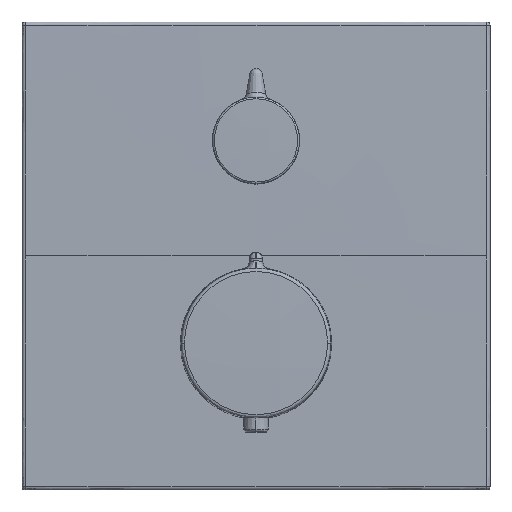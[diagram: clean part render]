
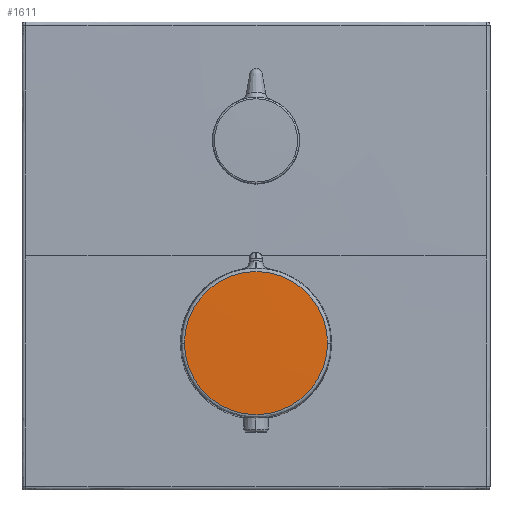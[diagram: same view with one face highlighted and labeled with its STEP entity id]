
A CAD part, top view. The second image highlights one B-rep face of the part: STEP entity #1611.
In plain terms, the highlighted free-form (B-spline) face has degree [3, 3] with [4, 4] control points.
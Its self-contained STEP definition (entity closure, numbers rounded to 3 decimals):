
#110 = CARTESIAN_POINT ( 'NONE',  ( 23.362, -51.395, 47.096 ) ) ;
#194 = DIRECTION ( 'NONE',  ( 0., 0., -1. ) ) ;
#375 = VERTEX_POINT ( 'NONE', #5105 ) ;
#606 =( BOUNDED_SURFACE ( )  B_SPLINE_SURFACE ( 3, 3, ( 
 ( #3261, #2997, #4011, #110 ),
 ( #5140, #4754, #860, #801 ),
 ( #2113, #5568, #776, #3024 ),
 ( #966, #4727, #5172, #1417 ) ),
 .UNSPECIFIED., .F., .F., .T. ) 
 B_SPLINE_SURFACE_WITH_KNOTS ( ( 4, 4 ),
 ( 4, 4 ),
 ( 0., 1. ),
 ( 0., 1. ),
 .UNSPECIFIED. ) 
 GEOMETRIC_REPRESENTATION_ITEM ( )  RATIONAL_B_SPLINE_SURFACE ( (
 ( 1., 1., 1., 1.),
 ( 1., 1., 1., 1.),
 ( 1., 1., 1., 1.),
 ( 1., 1., 1., 1.) ) ) 
 REPRESENTATION_ITEM ( '' )  SURFACE ( )  );
#776 = CARTESIAN_POINT ( 'NONE',  ( -7.697, -35.836, 47.86 ) ) ;
#801 = CARTESIAN_POINT ( 'NONE',  ( 7.835, -51.404, 47.477 ) ) ;
#860 = CARTESIAN_POINT ( 'NONE',  ( 7.835, -35.836, 47.859 ) ) ;
#966 = CARTESIAN_POINT ( 'NONE',  ( -23.224, -4.704, 47.102 ) ) ;
#1417 = CARTESIAN_POINT ( 'NONE',  ( -23.224, -51.395, 47.099 ) ) ;
#1428 = ORIENTED_EDGE ( 'NONE', *, *, #5572, .F. ) ;
#1611 = ADVANCED_FACE ( 'NONE', ( #3693 ), #606, .T. ) ;
#1623 = CIRCLE ( 'NONE', #4263, 22.947 ) ;
#1904 = CIRCLE ( 'NONE', #4005, 22.947 ) ;
#1983 = ORIENTED_EDGE ( 'NONE', *, *, #3390, .F. ) ;
#2113 = CARTESIAN_POINT ( 'NONE',  ( -7.697, -4.694, 47.48 ) ) ;
#2805 = DIRECTION ( 'NONE',  ( -1., 0., 0. ) ) ;
#2950 = DIRECTION ( 'NONE',  ( 0., 0., -1. ) ) ;
#2997 = CARTESIAN_POINT ( 'NONE',  ( 23.362, -20.266, 47.479 ) ) ;
#3024 = CARTESIAN_POINT ( 'NONE',  ( -7.697, -51.404, 47.478 ) ) ;
#3051 = EDGE_LOOP ( 'NONE', ( #1983, #1428 ) ) ;
#3188 = CARTESIAN_POINT ( 'NONE',  ( 0., -28., 47.393 ) ) ;
#3261 = CARTESIAN_POINT ( 'NONE',  ( 23.362, -4.704, 47.099 ) ) ;
#3390 = EDGE_CURVE ( 'NONE', #375, #5460, #1623, .T. ) ;
#3693 = FACE_OUTER_BOUND ( 'NONE', #3051, .T. ) ;
#3797 = CARTESIAN_POINT ( 'NONE',  ( 22.947, -28., 47.393 ) ) ;
#4005 = AXIS2_PLACEMENT_3D ( 'NONE', #3188, #2950, #5475 ) ;
#4011 = CARTESIAN_POINT ( 'NONE',  ( 23.362, -35.833, 47.478 ) ) ;
#4263 = AXIS2_PLACEMENT_3D ( 'NONE', #5411, #194, #2805 ) ;
#4727 = CARTESIAN_POINT ( 'NONE',  ( -23.224, -20.266, 47.482 ) ) ;
#4754 = CARTESIAN_POINT ( 'NONE',  ( 7.835, -20.263, 47.86 ) ) ;
#5105 = CARTESIAN_POINT ( 'NONE',  ( -22.947, -28., 47.393 ) ) ;
#5140 = CARTESIAN_POINT ( 'NONE',  ( 7.835, -4.694, 47.479 ) ) ;
#5172 = CARTESIAN_POINT ( 'NONE',  ( -23.224, -35.833, 47.482 ) ) ;
#5411 = CARTESIAN_POINT ( 'NONE',  ( 0., -28., 47.393 ) ) ;
#5460 = VERTEX_POINT ( 'NONE', #3797 ) ;
#5475 = DIRECTION ( 'NONE',  ( -1., 0., 0. ) ) ;
#5568 = CARTESIAN_POINT ( 'NONE',  ( -7.697, -20.263, 47.861 ) ) ;
#5572 = EDGE_CURVE ( 'NONE', #5460, #375, #1904, .T. ) ;
